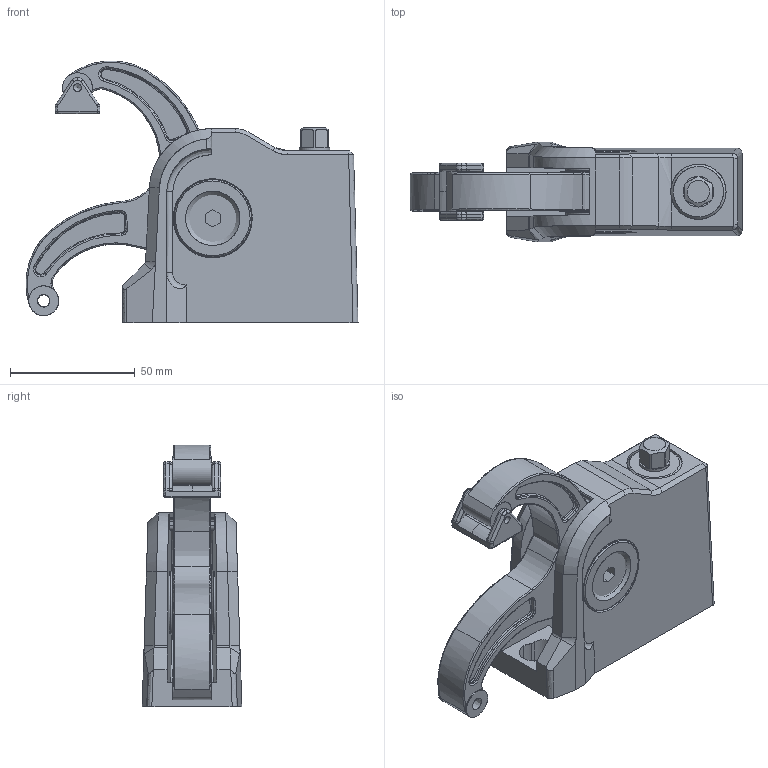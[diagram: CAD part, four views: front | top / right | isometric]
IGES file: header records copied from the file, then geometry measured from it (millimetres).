
Start section: ZWSOFT
Global section: file name: BAS-CB9-4.igs; native system: ZW3D; preprocessor: 1.0; author: ZW3D; organization: ZWSOFT; date: 120704.095706; units: millimetre
Bounding box: 133.26 x 40 x 105.14 mm (x, y, z)
Surface area: 73980.7 mm2 (no closed solid volume)
Topology: 0 solids, 0 shells, 468 faces, 2382 edges, 2251 vertices
Faces by surface type: bspline 468
